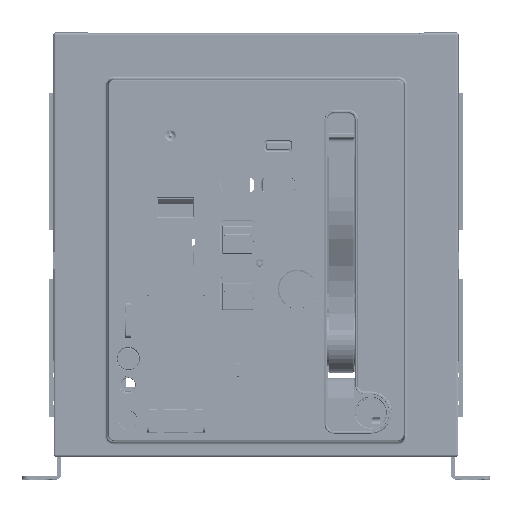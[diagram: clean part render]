
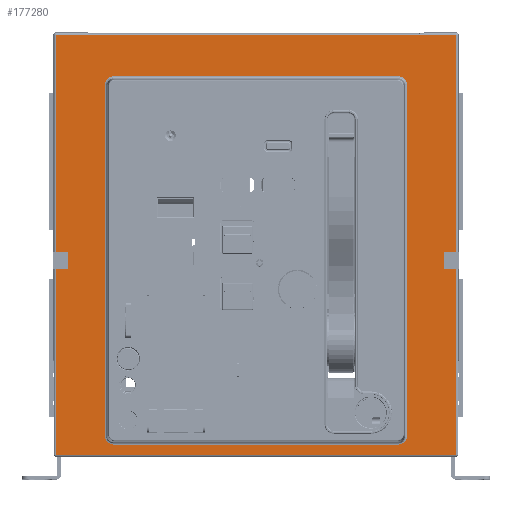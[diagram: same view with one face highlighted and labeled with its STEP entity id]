
A CAD part, top view. The second image highlights one B-rep face of the part: STEP entity #177280.
In plain terms, the highlighted planar face has unit normal (0, 0, 1).
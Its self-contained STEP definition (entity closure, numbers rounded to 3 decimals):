
#158031=DIRECTION('',(0.,1.,0.));
#158032=VECTOR('',#158031,15.4);
#158033=CARTESIAN_POINT('',(-170.5,-21.15,49.));
#158034=LINE('',#158033,#158032);
#158035=DIRECTION('',(-1.,0.,0.));
#158036=VECTOR('',#158035,11.017);
#158037=CARTESIAN_POINT('',(-170.5,-5.75,49.));
#158038=LINE('',#158037,#158036);
#158039=DIRECTION('',(1.,0.,0.));
#158040=VECTOR('',#158039,11.017);
#158041=CARTESIAN_POINT('',(170.5,-21.15,49.));
#158042=LINE('',#158041,#158040);
#158043=CARTESIAN_POINT('',(-136.965,-172.617,
49.));
#158044=CARTESIAN_POINT('',(-136.965,-173.333,
49.));
#158045=CARTESIAN_POINT('',(-136.78,-174.71,
49.));
#158046=CARTESIAN_POINT('',(-135.971,-176.668,
49.));
#158047=CARTESIAN_POINT('',(-134.687,-178.337,
49.));
#158048=CARTESIAN_POINT('',(-133.019,-179.62,
49.));
#158049=CARTESIAN_POINT('',(-131.06,-180.43,
49.));
#158050=CARTESIAN_POINT('',(-129.683,-180.615,
49.));
#158051=CARTESIAN_POINT('',(-128.967,-180.615,
49.));
#158053=CARTESIAN_POINT('',(128.967,-180.615,
49.));
#158054=CARTESIAN_POINT('',(129.683,-180.615,
49.));
#158055=CARTESIAN_POINT('',(131.06,-180.43,
49.));
#158056=CARTESIAN_POINT('',(133.018,-179.621,
49.));
#158057=CARTESIAN_POINT('',(134.687,-178.337,
49.));
#158058=CARTESIAN_POINT('',(135.97,-176.669,
49.));
#158059=CARTESIAN_POINT('',(136.78,-174.71,
49.));
#158060=CARTESIAN_POINT('',(136.965,-173.333,
49.));
#158061=CARTESIAN_POINT('',(136.965,-172.617,
49.));
#158063=CARTESIAN_POINT('',(136.965,145.317,
49.));
#158064=CARTESIAN_POINT('',(136.965,146.033,
49.));
#158065=CARTESIAN_POINT('',(136.78,147.41,
49.));
#158066=CARTESIAN_POINT('',(135.971,149.368,
49.));
#158067=CARTESIAN_POINT('',(134.687,151.037,
49.));
#158068=CARTESIAN_POINT('',(133.019,152.32,
49.));
#158069=CARTESIAN_POINT('',(131.06,153.13,
49.));
#158070=CARTESIAN_POINT('',(129.683,153.315,
49.));
#158071=CARTESIAN_POINT('',(128.967,153.315,
49.));
#158073=CARTESIAN_POINT('',(-128.967,153.315,
49.));
#158074=CARTESIAN_POINT('',(-129.683,153.315,
49.));
#158075=CARTESIAN_POINT('',(-131.06,153.13,
49.));
#158076=CARTESIAN_POINT('',(-133.018,152.321,
49.));
#158077=CARTESIAN_POINT('',(-134.687,151.037,
49.));
#158078=CARTESIAN_POINT('',(-135.97,149.369,
49.));
#158079=CARTESIAN_POINT('',(-136.78,147.41,
49.));
#158080=CARTESIAN_POINT('',(-136.965,146.033,
49.));
#158081=CARTESIAN_POINT('',(-136.965,145.317,
49.));
#158083=DIRECTION('',(0.,1.,0.));
#158084=VECTOR('',#158083,168.5);
#158085=CARTESIAN_POINT('',(181.517,-189.65,49.));
#158086=LINE('',#158085,#158084);
#158199=DIRECTION('',(0.,1.,0.));
#158200=VECTOR('',#158199,15.4);
#158201=CARTESIAN_POINT('',(170.5,-21.15,49.));
#158202=LINE('',#158201,#158200);
#158216=DIRECTION('',(1.,0.,0.));
#158217=VECTOR('',#158216,11.017);
#158218=CARTESIAN_POINT('',(170.5,-5.75,49.));
#158219=LINE('',#158218,#158217);
#158220=DIRECTION('',(0.,1.,0.));
#158221=VECTOR('',#158220,196.517);
#158222=CARTESIAN_POINT('',(181.517,-5.75,49.));
#158223=LINE('',#158222,#158221);
#158251=DIRECTION('',(-1.,0.,0.));
#158252=VECTOR('',#158251,363.035);
#158253=CARTESIAN_POINT('',(181.517,190.767,49.));
#158254=LINE('',#158253,#158252);
#160865=DIRECTION('',(1.,0.,0.));
#160866=VECTOR('',#160865,363.035);
#160867=CARTESIAN_POINT('',(-181.517,-189.65,49.));
#160868=LINE('',#160867,#160866);
#160888=DIRECTION('',(0.,-1.,0.));
#160889=VECTOR('',#160888,168.5);
#160890=CARTESIAN_POINT('',(-181.517,-21.15,49.));
#160891=LINE('',#160890,#160889);
#160909=DIRECTION('',(-1.,0.,0.));
#160910=VECTOR('',#160909,11.017);
#160911=CARTESIAN_POINT('',(-170.5,-21.15,49.));
#160912=LINE('',#160911,#160910);
#160940=DIRECTION('',(0.,-1.,0.));
#160941=VECTOR('',#160940,196.517);
#160942=CARTESIAN_POINT('',(-181.517,190.767,49.));
#160943=LINE('',#160942,#160941);
#163569=DIRECTION('',(-1.,0.,0.));
#163570=VECTOR('',#163569,257.933);
#163571=CARTESIAN_POINT('',(128.967,-180.615,
49.));
#163572=LINE('',#163571,#163570);
#163587=DIRECTION('',(0.,-1.,0.));
#163588=VECTOR('',#163587,317.933);
#163589=CARTESIAN_POINT('',(136.965,145.317,
49.));
#163590=LINE('',#163589,#163588);
#163605=DIRECTION('',(1.,0.,0.));
#163606=VECTOR('',#163605,257.933);
#163607=CARTESIAN_POINT('',(-128.967,153.315,
49.));
#163608=LINE('',#163607,#163606);
#163623=DIRECTION('',(0.,1.,0.));
#163624=VECTOR('',#163623,317.933);
#163625=CARTESIAN_POINT('',(-136.965,-172.617,
49.));
#163626=LINE('',#163625,#163624);
#173184=CARTESIAN_POINT('',(181.517,-189.65,49.));
#173185=CARTESIAN_POINT('',(181.517,-21.15,49.));
#173186=VERTEX_POINT('',#173184);
#173187=VERTEX_POINT('',#173185);
#173188=CARTESIAN_POINT('',(-181.517,-189.65,49.));
#173189=VERTEX_POINT('',#173188);
#173190=CARTESIAN_POINT('',(-181.517,-21.15,49.));
#173191=VERTEX_POINT('',#173190);
#173192=CARTESIAN_POINT('',(-170.5,-21.15,49.));
#173193=VERTEX_POINT('',#173192);
#173194=CARTESIAN_POINT('',(-170.5,-5.75,49.));
#173195=VERTEX_POINT('',#173194);
#173196=CARTESIAN_POINT('',(-181.517,-5.75,49.));
#173197=VERTEX_POINT('',#173196);
#173198=CARTESIAN_POINT('',(-181.517,190.767,49.));
#173199=VERTEX_POINT('',#173198);
#173200=CARTESIAN_POINT('',(181.517,190.767,49.));
#173201=VERTEX_POINT('',#173200);
#173202=CARTESIAN_POINT('',(181.517,-5.75,49.));
#173203=VERTEX_POINT('',#173202);
#173204=CARTESIAN_POINT('',(170.5,-5.75,49.));
#173205=VERTEX_POINT('',#173204);
#173206=CARTESIAN_POINT('',(170.5,-21.15,49.));
#173207=VERTEX_POINT('',#173206);
#173208=CARTESIAN_POINT('',(-136.965,-172.617,
49.));
#173209=CARTESIAN_POINT('',(-136.965,145.317,
49.));
#173210=VERTEX_POINT('',#173208);
#173211=VERTEX_POINT('',#173209);
#173212=VERTEX_POINT('',#158051);
#173213=CARTESIAN_POINT('',(128.967,-180.615,
49.));
#173214=VERTEX_POINT('',#173213);
#173215=VERTEX_POINT('',#158061);
#173216=CARTESIAN_POINT('',(136.965,145.317,
49.));
#173217=VERTEX_POINT('',#173216);
#173218=VERTEX_POINT('',#158071);
#173219=CARTESIAN_POINT('',(-128.967,153.315,
49.));
#173220=VERTEX_POINT('',#173219);
#177231=CARTESIAN_POINT('',(0.,0.,49.));
#177232=DIRECTION('',(0.,0.,1.));
#177233=DIRECTION('',(1.,0.,0.));
#177234=AXIS2_PLACEMENT_3D('',#177231,#177232,#177233);
#177235=PLANE('',#177234);
#177237=ORIENTED_EDGE('',*,*,#177236,.F.);
#177239=ORIENTED_EDGE('',*,*,#177238,.F.);
#177241=ORIENTED_EDGE('',*,*,#177240,.F.);
#177243=ORIENTED_EDGE('',*,*,#177242,.F.);
#177245=ORIENTED_EDGE('',*,*,#177244,.T.);
#177247=ORIENTED_EDGE('',*,*,#177246,.T.);
#177249=ORIENTED_EDGE('',*,*,#177248,.F.);
#177251=ORIENTED_EDGE('',*,*,#177250,.F.);
#177253=ORIENTED_EDGE('',*,*,#177252,.F.);
#177255=ORIENTED_EDGE('',*,*,#177254,.F.);
#177257=ORIENTED_EDGE('',*,*,#177256,.F.);
#177259=ORIENTED_EDGE('',*,*,#177258,.T.);
#177260=EDGE_LOOP('',(#177237,#177239,#177241,#177243,#177245,#177247,#177249,
#177251,#177253,#177255,#177257,#177259));
#177261=FACE_OUTER_BOUND('',#177260,.F.);
#177263=ORIENTED_EDGE('',*,*,#177262,.F.);
#177265=ORIENTED_EDGE('',*,*,#177264,.T.);
#177267=ORIENTED_EDGE('',*,*,#177266,.F.);
#177269=ORIENTED_EDGE('',*,*,#177268,.T.);
#177271=ORIENTED_EDGE('',*,*,#177270,.F.);
#177273=ORIENTED_EDGE('',*,*,#177272,.T.);
#177275=ORIENTED_EDGE('',*,*,#177274,.F.);
#177277=ORIENTED_EDGE('',*,*,#177276,.T.);
#177278=EDGE_LOOP('',(#177263,#177265,#177267,#177269,#177271,#177273,#177275,
#177277));
#177279=FACE_BOUND('',#177278,.F.);
#177280=ADVANCED_FACE('',(#177261,#177279),#177235,.T.);
#158052=B_SPLINE_CURVE_WITH_KNOTS('',3,(#158043,#158044,#158045,#158046,#158047,
#158048,#158049,#158050,#158051),.UNSPECIFIED.,.F.,.F.,(4,1,1,1,1,1,4),(0.,
0.167,0.333,0.5,0.667,0.833,
1.),.UNSPECIFIED.);
#158062=B_SPLINE_CURVE_WITH_KNOTS('',3,(#158053,#158054,#158055,#158056,#158057,
#158058,#158059,#158060,#158061),.UNSPECIFIED.,.F.,.F.,(4,1,1,1,1,1,4),(0.,
0.167,0.333,0.5,0.667,0.833,
1.),.UNSPECIFIED.);
#158072=B_SPLINE_CURVE_WITH_KNOTS('',3,(#158063,#158064,#158065,#158066,#158067,
#158068,#158069,#158070,#158071),.UNSPECIFIED.,.F.,.F.,(4,1,1,1,1,1,4),(0.,
0.167,0.333,0.5,0.667,0.833,
1.),.UNSPECIFIED.);
#158082=B_SPLINE_CURVE_WITH_KNOTS('',3,(#158073,#158074,#158075,#158076,#158077,
#158078,#158079,#158080,#158081),.UNSPECIFIED.,.F.,.F.,(4,1,1,1,1,1,4),(0.,
0.167,0.333,0.5,0.667,0.833,
1.),.UNSPECIFIED.);
#177236=EDGE_CURVE('',#173186,#173187,#158086,.T.);
#177238=EDGE_CURVE('',#173189,#173186,#160868,.T.);
#177240=EDGE_CURVE('',#173191,#173189,#160891,.T.);
#177242=EDGE_CURVE('',#173193,#173191,#160912,.T.);
#177244=EDGE_CURVE('',#173193,#173195,#158034,.T.);
#177246=EDGE_CURVE('',#173195,#173197,#158038,.T.);
#177248=EDGE_CURVE('',#173199,#173197,#160943,.T.);
#177250=EDGE_CURVE('',#173201,#173199,#158254,.T.);
#177252=EDGE_CURVE('',#173203,#173201,#158223,.T.);
#177254=EDGE_CURVE('',#173205,#173203,#158219,.T.);
#177256=EDGE_CURVE('',#173207,#173205,#158202,.T.);
#177258=EDGE_CURVE('',#173207,#173187,#158042,.T.);
#177262=EDGE_CURVE('',#173210,#173211,#163626,.T.);
#177264=EDGE_CURVE('',#173210,#173212,#158052,.T.);
#177266=EDGE_CURVE('',#173214,#173212,#163572,.T.);
#177268=EDGE_CURVE('',#173214,#173215,#158062,.T.);
#177270=EDGE_CURVE('',#173217,#173215,#163590,.T.);
#177272=EDGE_CURVE('',#173217,#173218,#158072,.T.);
#177274=EDGE_CURVE('',#173220,#173218,#163608,.T.);
#177276=EDGE_CURVE('',#173220,#173211,#158082,.T.);
